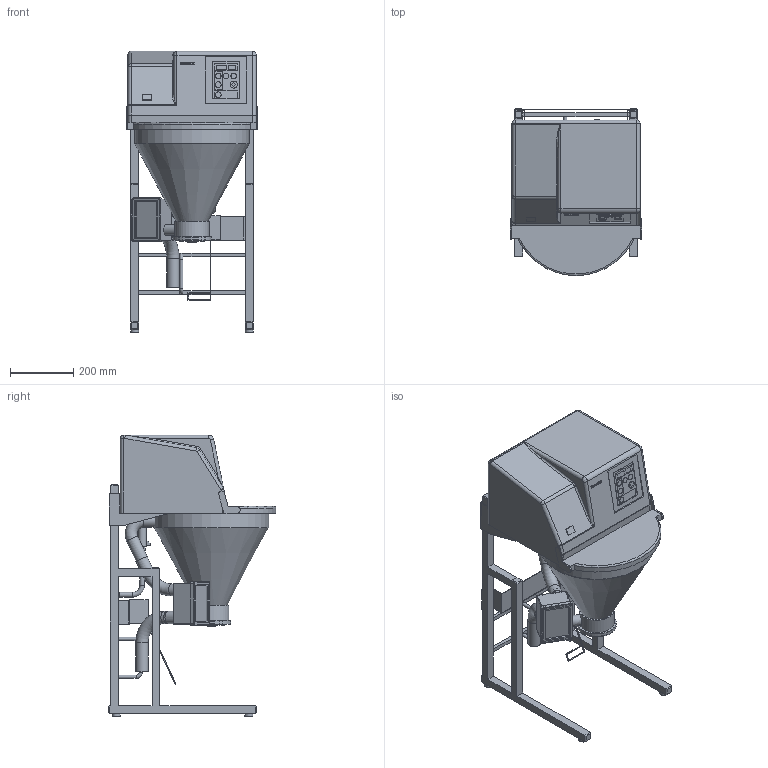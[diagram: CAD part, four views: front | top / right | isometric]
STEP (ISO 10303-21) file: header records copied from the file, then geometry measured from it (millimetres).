
FILE_DESCRIPTION(/* description */ (''),/* implementation_level */ '2;1');
FILE_NAME(/* name */ '',/* time_stamp */ '2024-02-06T15:57:31+09:00',/* author */ (''),/* organization */ (''),/* preprocessor_version */ 'ST-DEVELOPER v20',/* originating_system */ 'Autodesk Translation Framework v12.20.1.177',/* authorisation */ '');
FILE_SCHEMA (('AUTOMOTIVE_DESIGN { 1 0 10303 214 3 1 1 }'));
Length unit declared in the file: millimetre
Products named in the file (1): 仕様図_RM-601DT
Bounding box: 415 x 530 x 890 mm (x, y, z)
Volume: 34649528.1 mm3; surface area: 2229151 mm2
Topology: 21 solids, 21 shells, 604 faces, 1463 edges, 946 vertices
Faces by surface type: plane 374, cylinder 126, bspline 86, torus 11, sphere 5, cone 2
Full cylindrical faces by diameter (mm): 10 x4, 15 x3, 18 x5, 19 x1, 23 x1, 24.22 x1, 25 x4, 26 x1, 26.8 x1, 27.22 x1, 29 x1, 32 x1, 32.8 x1, 32.88 x4, 33 x1, 34 x1, 38 x6, 39 x3, 79 x1, 82 x1, 107 x1, 110 x1, 120 x1, 123 x1, 359 x1, 362 x1
Entity records: 18005 total; most frequent: CARTESIAN_POINT 3941, ORIENTED_EDGE 2924, DIRECTION 2634, EDGE_CURVE 1462, LINE 994, VECTOR 994, VERTEX_POINT 946, AXIS2_PLACEMENT_3D 820
